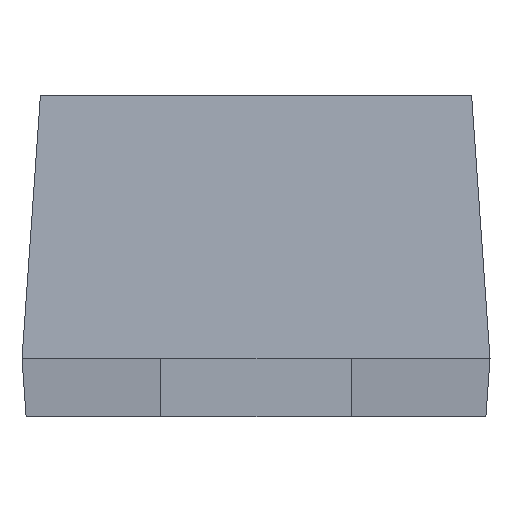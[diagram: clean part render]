
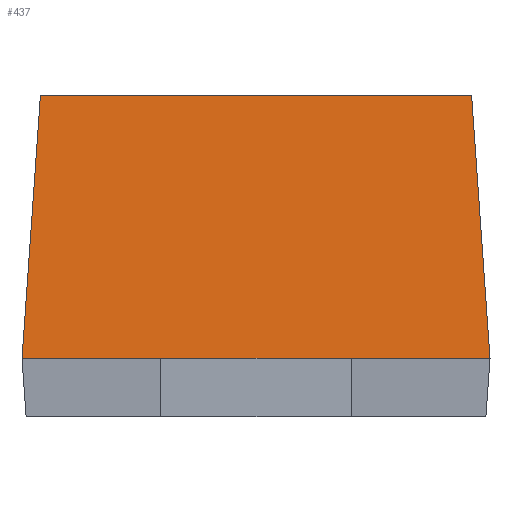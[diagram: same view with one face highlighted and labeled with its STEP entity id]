
A CAD part, left-side view. The second image highlights one B-rep face of the part: STEP entity #437.
In plain terms, the highlighted planar face has unit normal (-0.998, 0, 0.07).
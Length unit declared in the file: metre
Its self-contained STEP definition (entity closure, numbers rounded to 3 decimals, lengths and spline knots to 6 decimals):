
#48=ORIENTED_EDGE('',*,*,#151,.T.);
#49=ORIENTED_EDGE('',*,*,#132,.T.);
#50=ORIENTED_EDGE('',*,*,#152,.T.);
#51=ORIENTED_EDGE('',*,*,#153,.T.);
#52=ORIENTED_EDGE('',*,*,#154,.F.);
#53=ORIENTED_EDGE('',*,*,#155,.F.);
#132=EDGE_CURVE('',#190,#191,#226,.T.);
#151=EDGE_CURVE('',#202,#190,#245,.T.);
#152=EDGE_CURVE('',#191,#203,#246,.T.);
#153=EDGE_CURVE('',#203,#204,#247,.T.);
#154=EDGE_CURVE('',#205,#204,#248,.T.);
#155=EDGE_CURVE('',#202,#205,#249,.T.);
#190=VERTEX_POINT('',#693);
#191=VERTEX_POINT('',#694);
#202=VERTEX_POINT('',#732);
#203=VERTEX_POINT('',#734);
#204=VERTEX_POINT('',#736);
#205=VERTEX_POINT('',#738);
#226=LINE('',#692,#284);
#245=LINE('',#731,#303);
#246=LINE('',#733,#304);
#247=LINE('',#735,#305);
#248=LINE('',#737,#306);
#249=LINE('',#739,#307);
#284=VECTOR('',#581,1.);
#303=VECTOR('',#616,1.);
#304=VECTOR('',#617,1.);
#305=VECTOR('',#618,1.);
#306=VECTOR('',#619,1.);
#307=VECTOR('',#620,1.);
#347=EDGE_LOOP('',(#48,#49,#50,#51,#52,#53));
#373=FACE_BOUND('',#347,.T.);
#399=PLANE('',#555);
#437=ADVANCED_FACE('',(#373),#399,.T.);
#555=AXIS2_PLACEMENT_3D('',#730,#614,#615);
#581=DIRECTION('',(0.,-1.,0.));
#614=DIRECTION('',(-0.998,0.,0.07));
#615=DIRECTION('',(0.,-1.,0.));
#616=DIRECTION('',(0.,-1.,0.));
#617=DIRECTION('',(0.,-1.,0.));
#618=DIRECTION('',(0.07,0.07,0.995));
#619=DIRECTION('',(0.,-1.,0.));
#620=DIRECTION('',(0.07,-0.07,0.995));
#692=CARTESIAN_POINT('',(0.1512,-0.1274,0.001795));
#693=CARTESIAN_POINT('',(0.1512,-0.127875,0.001795));
#694=CARTESIAN_POINT('',(0.1512,-0.128525,0.001795));
#730=CARTESIAN_POINT('',(0.1512,-0.1274,0.001795));
#731=CARTESIAN_POINT('',(0.1512,-0.1274,0.001795));
#732=CARTESIAN_POINT('',(0.1512,-0.1274,0.001795));
#733=CARTESIAN_POINT('',(0.1512,-0.1274,0.001795));
#734=CARTESIAN_POINT('',(0.1512,-0.129,0.001795));
#735=CARTESIAN_POINT('',(0.151231,-0.128969,0.002245));
#736=CARTESIAN_POINT('',(0.151263,-0.128937,0.002695));
#737=CARTESIAN_POINT('',(0.151263,-0.127463,0.002695));
#738=CARTESIAN_POINT('',(0.151263,-0.127463,0.002695));
#739=CARTESIAN_POINT('',(0.151231,-0.127431,0.002245));
